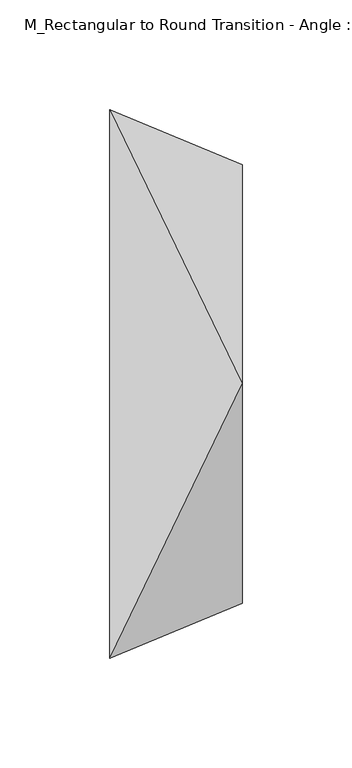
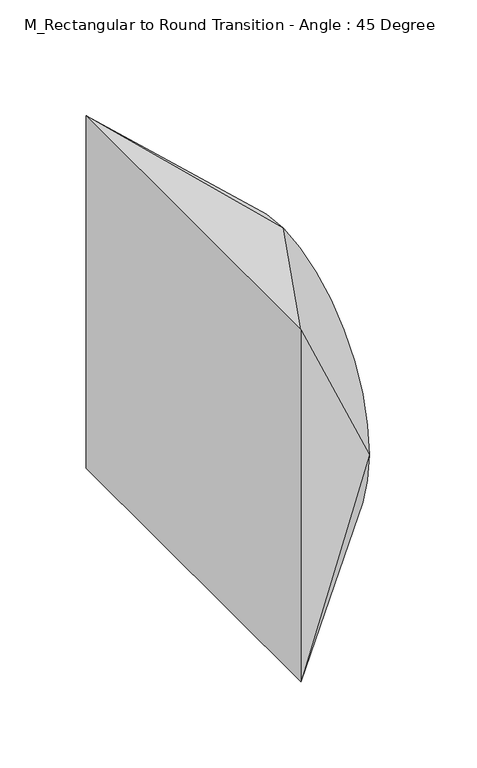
"""IFC4 building model written with IfcOpenShell, lengths in millimetres: duct fitting geometry, M_Rectangular to Round Transition - Angle : 45 Degree."""

from ifc_helpers import new_model, si_unit, frame, origin, place, context, project, spatial, circle_curve, source, transform, mapped, element, save
from ifc_brep_helpers import plane_surface, spline_surface, advanced_brep


def m_rectangular_to_round_transition_angle_45_degree_8322f327(model_context):
    return source(origin(), model_context, "Body", "AdvancedBrep", [
        advanced_brep(
        [(0.0, -125.0, -125.0), (0.0, -125.0, 125.0), (0.0, 125.0, 125.0), (0.0, 125.0, -125.0), (60.3553391, -100.0, 0.0), (60.3553391, 0.0, -100.0), (60.3553391, 100.0, 0.0), (60.3553391, 0.0, 100.0)],
        [
            (0, 1),
            (1, 2),
            (2, 3),
            (3, 0),
            (4, 5, circle_curve(frame((60.3553391, 0.0, 0.0), z_axis=(1.0, 0.0, 0.0), x_axis=(0.0, -1.0, 0.0)), 100.0)),
            (5, 6, circle_curve(frame((60.3553391, 0.0, 0.0), z_axis=(1.0, 0.0, 0.0), x_axis=(0.0, -1.0, 0.0)), 100.0)),
            (6, 7, circle_curve(frame((60.3553391, 0.0, 0.0), z_axis=(1.0, 0.0, 0.0), x_axis=(0.0, -1.0, 0.0)), 100.0)),
            (7, 4, circle_curve(frame((60.3553391, 0.0, 0.0), z_axis=(1.0, 0.0, 0.0), x_axis=(0.0, -1.0, 0.0)), 100.0)),
            (0, 4),
            (4, 1),
            (7, 1),
            (7, 2),
            (6, 2),
            (6, 3),
            (5, 3),
            (5, 0),
        ],
        [
            plane_surface(frame((0.0, 0.0, 0.0), z_axis=(-1.0, 0.0, 0.0), x_axis=(0.0, 1.0, 0.0))),
            plane_surface(frame((60.3553391, 0.0, 0.0), z_axis=(1.0, 0.0, 0.0), x_axis=(0.0, 1.0, 0.0))),
            plane_surface(frame((60.3553391, -100.0, 0.0), z_axis=(0.3826834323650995, -0.9238795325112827, 0.0), x_axis=(0.0, 0.0, 1.0))),
            spline_surface(2, 1, [[(60.3553391, -100.0, 0.0), (0.0, -125.0, 125.0)], [(60.3553391, -100.0, 100.0), (0.0, -125.0, 125.0)], [(60.3553391, 0.0, 100.0), (0.0, -125.0, 125.0)]], [3, 3], [2, 2], [0.0, 1.0], [0.0, 1.0], weights=[[1.0, 1.0], [0.7071067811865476, 0.7071067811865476], [1.0, 1.0]]),
            plane_surface(frame((60.3553391, 0.0, 100.0), z_axis=(0.38268343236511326, 0.0, 0.9238795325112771), x_axis=(0.0, 1.0, 0.0))),
            spline_surface(2, 1, [[(60.3553391, 0.0, 100.0), (0.0, 125.0, 125.0)], [(60.3553391, 100.0, 100.0), (0.0, 125.0, 125.0)], [(60.3553391, 100.0, 0.0), (0.0, 125.0, 125.0)]], [3, 3], [2, 2], [0.0, 1.0], [0.0, 1.0], weights=[[1.0, 1.0], [0.7071067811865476, 0.7071067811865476], [1.0, 1.0]]),
            plane_surface(frame((60.3553391, 100.0, 0.0), z_axis=(0.38268343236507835, 0.9238795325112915, 0.0), x_axis=(0.0, 0.0, -1.0))),
            spline_surface(2, 1, [[(60.3553391, 100.0, 0.0), (0.0, 125.0, -125.0)], [(60.3553391, 100.0, -100.0), (0.0, 125.0, -125.0)], [(60.3553391, 0.0, -100.0), (0.0, 125.0, -125.0)]], [3, 3], [2, 2], [0.0, 1.0], [0.0, 1.0], weights=[[1.0, 1.0], [0.7071067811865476, 0.7071067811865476], [1.0, 1.0]]),
            plane_surface(frame((60.3553391, 0.0, -100.0), z_axis=(0.38268343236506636, 0.0, -0.9238795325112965), x_axis=(0.0, -1.0, 0.0))),
            spline_surface(2, 1, [[(60.3553391, 0.0, -100.0), (0.0, -125.0, -125.0)], [(60.3553391, -100.0, -100.0), (0.0, -125.0, -125.0)], [(60.3553391, -100.0, 0.0), (0.0, -125.0, -125.0)]], [3, 3], [2, 2], [0.0, 1.0], [0.0, 1.0], weights=[[1.0, 1.0], [0.7071067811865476, 0.7071067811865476], [1.0, 1.0]]),
        ],
        [
            (0, [[1, 2, 3, 4]]),
            (1, [[5, 6, 7, 8]]),
            (2, [[-1, 9, 10]]),
            (3, [[-8, 11, -10]]),
            (4, [[-2, -11, 12]]),
            (5, [[-7, 13, -12]]),
            (6, [[-3, -13, 14]]),
            (7, [[-6, 15, -14]]),
            (8, [[-4, -15, 16]]),
            (9, [[-5, -9, -16]]),
        ],
    ),
        advanced_brep(
        [(0.0, -125.0, -125.0), (0.0, -125.0, 125.0), (0.0, 125.0, 125.0), (0.0, 125.0, -125.0), (60.3553391, -100.0, 0.0), (60.3553391, 0.0, -100.0), (60.3553391, 100.0, 0.0), (60.3553391, 0.0, 100.0)],
        [
            (0, 1),
            (1, 2),
            (2, 3),
            (3, 0),
            (4, 5, circle_curve(frame((60.3553391, 0.0, 0.0), z_axis=(1.0, 0.0, 0.0), x_axis=(0.0, -1.0, 0.0)), 100.0)),
            (5, 6, circle_curve(frame((60.3553391, 0.0, 0.0), z_axis=(1.0, 0.0, 0.0), x_axis=(0.0, -1.0, 0.0)), 100.0)),
            (6, 7, circle_curve(frame((60.3553391, 0.0, 0.0), z_axis=(1.0, 0.0, 0.0), x_axis=(0.0, -1.0, 0.0)), 100.0)),
            (7, 4, circle_curve(frame((60.3553391, 0.0, 0.0), z_axis=(1.0, 0.0, 0.0), x_axis=(0.0, -1.0, 0.0)), 100.0)),
            (0, 4),
            (4, 1),
            (7, 1),
            (7, 2),
            (6, 2),
            (6, 3),
            (5, 3),
            (5, 0),
        ],
        [
            plane_surface(frame((0.0, 0.0, 0.0), z_axis=(-1.0, 0.0, 0.0), x_axis=(0.0, 1.0, 0.0))),
            plane_surface(frame((60.3553391, 0.0, 0.0), z_axis=(1.0, 0.0, 0.0), x_axis=(0.0, 1.0, 0.0))),
            plane_surface(frame((60.3553391, -100.0, 0.0), z_axis=(0.3826834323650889, -0.9238795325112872, 0.0), x_axis=(0.0, 0.0, 1.0))),
            spline_surface(2, 1, [[(60.3553391, -100.0, 0.0), (0.0, -125.0, 125.0)], [(60.3553391, -100.0, 100.0), (0.0, -125.0, 125.0)], [(60.3553391, 0.0, 100.0), (0.0, -125.0, 125.0)]], [3, 3], [2, 2], [0.0, 1.0], [0.0, 1.0], weights=[[1.0, 1.0], [0.7071067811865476, 0.7071067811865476], [1.0, 1.0]]),
            plane_surface(frame((60.3553391, 0.0, 100.0), z_axis=(0.3826834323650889, 0.0, 0.9238795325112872), x_axis=(0.0, 1.0, 0.0))),
            spline_surface(2, 1, [[(60.3553391, 0.0, 100.0), (0.0, 125.0, 125.0)], [(60.3553391, 100.0, 100.0), (0.0, 125.0, 125.0)], [(60.3553391, 100.0, 0.0), (0.0, 125.0, 125.0)]], [3, 3], [2, 2], [0.0, 1.0], [0.0, 1.0], weights=[[1.0, 1.0], [0.7071067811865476, 0.7071067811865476], [1.0, 1.0]]),
            plane_surface(frame((60.3553391, 100.0, 0.0), z_axis=(0.38268343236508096, 0.9238795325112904, 0.0), x_axis=(0.0, 0.0, -1.0))),
            spline_surface(2, 1, [[(60.3553391, 100.0, 0.0), (0.0, 125.0, -125.0)], [(60.3553391, 100.0, -100.0), (0.0, 125.0, -125.0)], [(60.3553391, 0.0, -100.0), (0.0, 125.0, -125.0)]], [3, 3], [2, 2], [0.0, 1.0], [0.0, 1.0], weights=[[1.0, 1.0], [0.7071067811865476, 0.7071067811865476], [1.0, 1.0]]),
            plane_surface(frame((60.3553391, 0.0, -100.0), z_axis=(0.3826834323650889, 0.0, -0.9238795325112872), x_axis=(0.0, -1.0, 0.0))),
            spline_surface(2, 1, [[(60.3553391, 0.0, -100.0), (0.0, -125.0, -125.0)], [(60.3553391, -100.0, -100.0), (0.0, -125.0, -125.0)], [(60.3553391, -100.0, 0.0), (0.0, -125.0, -125.0)]], [3, 3], [2, 2], [0.0, 1.0], [0.0, 1.0], weights=[[1.0, 1.0], [0.7071067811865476, 0.7071067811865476], [1.0, 1.0]]),
        ],
        [
            (0, [[1, 2, 3, 4]]),
            (1, [[5, 6, 7, 8]]),
            (2, [[-1, 9, 10]]),
            (3, [[-8, 11, -10]]),
            (4, [[-2, -11, 12]]),
            (5, [[-7, 13, -12]]),
            (6, [[-3, -13, 14]]),
            (7, [[-6, 15, -14]]),
            (8, [[-4, -15, 16]]),
            (9, [[-5, -9, -16]]),
        ],
    ),
        advanced_brep(
        [(60.3553391, 0.0, 100.0), (60.3553391, -100.0, 0.0), (60.3553391, 0.0, -100.0), (60.3553391, 100.0, 0.0), (0.0, -125.0, 125.0), (0.0, 125.0, 125.0), (0.0, 125.0, -125.0), (0.0, -125.0, -125.0)],
        [
            (0, 1, circle_curve(frame((60.3553391, 0.0, 0.0), z_axis=(1.0, 0.0, 0.0), x_axis=(0.0, 1.0, 0.0)), 100.0)),
            (1, 2, circle_curve(frame((60.3553391, 0.0, 0.0), z_axis=(1.0, 0.0, 0.0), x_axis=(0.0, 1.0, 0.0)), 100.0)),
            (2, 3, circle_curve(frame((60.3553391, 0.0, 0.0), z_axis=(1.0, 0.0, 0.0), x_axis=(0.0, 1.0, 0.0)), 100.0)),
            (3, 0, circle_curve(frame((60.3553391, 0.0, 0.0), z_axis=(1.0, 0.0, 0.0), x_axis=(0.0, 1.0, 0.0)), 100.0)),
            (4, 5),
            (5, 6),
            (6, 7),
            (7, 4),
            (0, 4),
            (4, 1),
            (7, 1),
            (7, 2),
            (6, 2),
            (6, 3),
            (5, 3),
            (5, 0),
        ],
        [
            plane_surface(frame((60.3553391, 0.0, 0.0), z_axis=(1.0, 0.0, 0.0), x_axis=(0.0, 0.0, -1.0))),
            plane_surface(frame((0.0, 0.0, 0.0), z_axis=(-1.0, 0.0, 0.0), x_axis=(0.0, 0.0, -1.0))),
            spline_surface(2, 1, [[(0.0, -125.0, 125.0), (60.3553391, 0.0, 100.0)], [(0.0, -125.0, 125.0), (60.3553391, -100.0, 100.0)], [(0.0, -125.0, 125.0), (60.3553391, -100.0, 0.0)]], [3, 3], [2, 2], [0.0, 1.0], [0.0, 1.0], weights=[[1.0, 1.0], [0.7071067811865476, 0.7071067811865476], [1.0, 1.0]]),
            plane_surface(frame((0.0, -125.0, 0.0), z_axis=(0.3826834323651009, -0.9238795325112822, 0.0), x_axis=(0.0, 0.0, -1.0))),
            spline_surface(2, 1, [[(0.0, -125.0, -125.0), (60.3553391, -100.0, 0.0)], [(0.0, -125.0, -125.0), (60.3553391, -100.0, -100.0)], [(0.0, -125.0, -125.0), (60.3553391, 0.0, -100.0)]], [3, 3], [2, 2], [0.0, 1.0], [0.0, 1.0], weights=[[1.0, 1.0], [0.7071067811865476, 0.7071067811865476], [1.0, 1.0]]),
            plane_surface(frame((0.0, 0.0, -125.0), z_axis=(0.3826834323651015, 0.0, -0.9238795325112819), x_axis=(0.0, 1.0, 0.0))),
            spline_surface(2, 1, [[(0.0, 125.0, -125.0), (60.3553391, 0.0, -100.0)], [(0.0, 125.0, -125.0), (60.3553391, 100.0, -100.0)], [(0.0, 125.0, -125.0), (60.3553391, 100.0, 0.0)]], [3, 3], [2, 2], [0.0, 1.0], [0.0, 1.0], weights=[[1.0, 1.0], [0.7071067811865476, 0.7071067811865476], [1.0, 1.0]]),
            plane_surface(frame((0.0, 125.0, 0.0), z_axis=(0.38268343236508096, 0.9238795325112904, 0.0), x_axis=(0.0, 0.0, 1.0))),
            spline_surface(2, 1, [[(0.0, 125.0, 125.0), (60.3553391, 100.0, 0.0)], [(0.0, 125.0, 125.0), (60.3553391, 100.0, 100.0)], [(0.0, 125.0, 125.0), (60.3553391, 0.0, 100.0)]], [3, 3], [2, 2], [0.0, 1.0], [0.0, 1.0], weights=[[1.0, 1.0], [0.7071067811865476, 0.7071067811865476], [1.0, 1.0]]),
            plane_surface(frame((0.0, 0.0, 125.0), z_axis=(0.38268343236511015, 0.0, 0.9238795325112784), x_axis=(0.0, -1.0, 0.0))),
        ],
        [
            (0, [[1, 2, 3, 4]]),
            (1, [[5, 6, 7, 8]]),
            (2, [[-1, 9, 10]]),
            (3, [[-8, 11, -10]]),
            (4, [[-2, -11, 12]]),
            (5, [[-7, 13, -12]]),
            (6, [[-3, -13, 14]]),
            (7, [[-6, 15, -14]]),
            (8, [[-4, -15, 16]]),
            (9, [[-5, -9, -16]]),
        ],
    ),
    ])


if __name__ == "__main__":
    model = new_model("IFC4")
    model_context = context("Model", 3, world=origin())
    ifc_project = project(units=[si_unit("LENGTHUNIT", "METRE", prefix="MILLI")], contexts=[model_context])
    site = spatial("IfcSite", under=ifc_project)
    building = spatial("IfcBuilding", under=site)
    placement = place(None, origin())
    m_rectangular_to_round_transition_angle_45_degree_shape = m_rectangular_to_round_transition_angle_45_degree_8322f327(model_context)
    element("IfcDuctFitting", 1, ObjectType="M_Rectangular to Round Transition - Angle : 45 Degree", at=placement, inside=building, context=model_context, shape_type="MappedRepresentation", body=[
        mapped(m_rectangular_to_round_transition_angle_45_degree_shape, transform((0.0, 0.0, 0.0), x_axis=(1.0, 0.0, 0.0), y_axis=(0.0, 1.0, 0.0), z_axis=(0.0, 0.0, 1.0))),
    ])
    save(model, "model.ifc")
